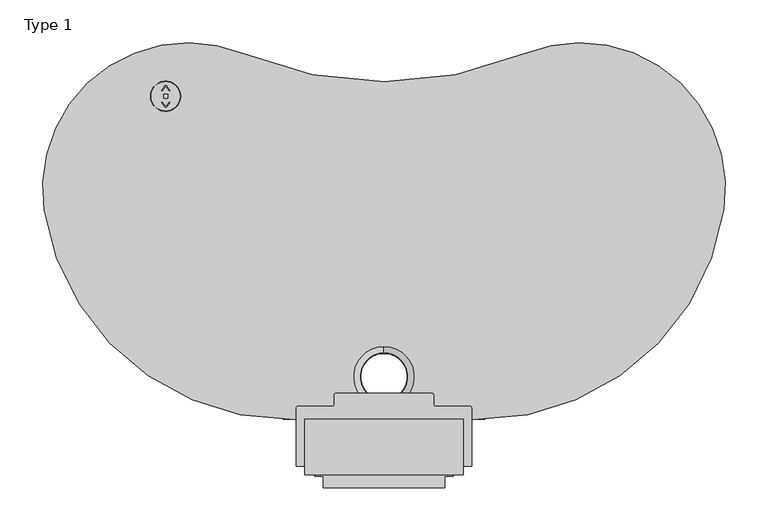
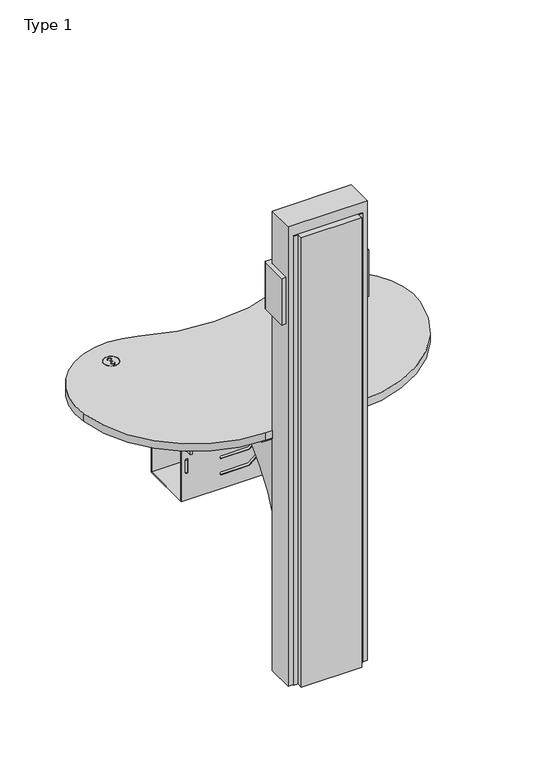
"""IFC4 building model written with IfcOpenShell, lengths in millimetres: furniture geometry, BK Library - Diarium : Type 1."""

from ifc_helpers import new_model, si_unit, point, frame, frame_2d, origin, origin_with_axes, place, context, project, spatial, polyline, circle_curve, ellipse_curve, trimmed, segment, composite_curve, outline, extrude, faceted_brep, source, transform, mapped, element, save
from ifc_brep_helpers import plane_surface, cylinder_surface, revolved_surface, advanced_brep


def type_1_df42e8d9(model_context):
    return source(origin(), model_context, "Body", "SolidModel", [
        advanced_brep(
        [(124.9969127, 334.5605984, 578.6136103), (124.9969127, 275.2, 578.6136103), (124.9969127, 277.6626827, 578.6136103), (124.9969127, 332.0979157, 578.6136103), (124.9969127, 334.5605984, 599.1136103), (124.9969127, 275.2, 599.1136103), (124.9969127, 340.1025774, 599.1136103), (124.9969127, 269.658021, 599.1136103), (124.9969127, 332.8173393, 603.1518838), (124.9969127, 276.9432591, 603.1518838), (124.9969127, 332.0979157, 602.7281109), (124.9969127, 277.6626827, 602.7281109)],
        [
            (0, 1, circle_curve(frame((124.9969127, 304.8802992, 578.6136103), z_axis=(0.0, 0.0, -1.0), x_axis=(0.0, -1.0, 0.0)), 29.6802992)),
            (1, 2),
            (2, 3, circle_curve(frame((124.9969127, 304.8802992, 578.6136103), z_axis=(0.0, 0.0, 1.0), x_axis=(0.0, -1.0, 0.0)), 27.2176165)),
            (3, 0),
            (1, 0, circle_curve(frame((124.9969127, 304.8802992, 578.6136103), z_axis=(0.0, 0.0, -1.0), x_axis=(0.0, -1.0, 0.0)), 29.6802992)),
            (3, 2, circle_curve(frame((124.9969127, 304.8802992, 578.6136103), z_axis=(0.0, 0.0, 1.0), x_axis=(0.0, -1.0, 0.0)), 27.2176165)),
            (4, 5, circle_curve(frame((124.9969127, 304.8802992, 599.1136103), z_axis=(0.0, 0.0, -1.0), x_axis=(0.0, -1.0, 0.0)), 29.6802992)),
            (5, 1),
            (0, 4),
            (5, 4, circle_curve(frame((124.9969127, 304.8802992, 599.1136103), z_axis=(0.0, 0.0, -1.0), x_axis=(0.0, -1.0, 0.0)), 29.6802992)),
            (6, 7, circle_curve(frame((124.9969127, 304.8802992, 599.1136103), z_axis=(0.0, 0.0, -1.0), x_axis=(0.0, -1.0, 0.0)), 35.2222782)),
            (7, 5),
            (4, 6),
            (7, 6, circle_curve(frame((124.9969127, 304.8802992, 599.1136103), z_axis=(0.0, 0.0, -1.0), x_axis=(0.0, -1.0, 0.0)), 35.2222782)),
            (8, 9, circle_curve(frame((124.9969127, 304.8802992, 603.1518838), z_axis=(0.0, 0.0, -1.0), x_axis=(0.0, -1.0, 0.0)), 27.9370401)),
            (9, 7),
            (6, 8),
            (9, 8, circle_curve(frame((124.9969127, 304.8802992, 603.1518838), z_axis=(0.0, 0.0, -1.0), x_axis=(0.0, -1.0, 0.0)), 27.9370401)),
            (10, 11, circle_curve(frame((124.9969127, 304.8802992, 602.7281109), z_axis=(0.0, 0.0, -1.0), x_axis=(0.0, -1.0, 0.0)), 27.2176165)),
            (11, 9, circle_curve(frame((124.9969127, 277.1781602, 602.7281109), z_axis=(1.0, 0.0, 0.0), x_axis=(0.0, 1.0, 0.0)), 0.4845224)),
            (8, 10, circle_curve(frame((124.9969127, 332.5824381, 602.7281109), z_axis=(1.0, 0.0, 0.0), x_axis=(0.0, -1.0, 0.0)), 0.4845224)),
            (11, 10, circle_curve(frame((124.9969127, 304.8802992, 602.7281109), z_axis=(0.0, 0.0, -1.0), x_axis=(0.0, -1.0, 0.0)), 27.2176165)),
            (2, 11),
            (10, 3),
        ],
        [
            plane_surface(frame((124.9969127, 304.8802992, 578.6136103), z_axis=(0.0, 0.0, -1.0), x_axis=(0.0, -1.0, 0.0))),
            cylinder_surface(frame((124.9969127, 304.8802992, 621.0146073), z_axis=(0.0, 0.0, 1.0), x_axis=(0.0, -1.0, 0.0)), 29.6802992),
            plane_surface(frame((124.9969127, 304.8802992, 599.1136103), z_axis=(0.0, 0.0, -1.0), x_axis=(0.0, -1.0, 0.0))),
            revolved_surface(polyline([(124.9969127, 269.658021, 599.1136103), (124.9969127, 276.9432591, 603.1518838)]), (124.9969127, 304.8802992, 621.0146073), (0.0, 0.0, 1.0)),
            revolved_surface(trimmed(ellipse_curve(frame((124.9969127, 277.1781602, 602.7281109), z_axis=(-1.0, 0.0, 0.0), x_axis=(0.0, 1.0, 0.0)), 0.4845224, 0.4845224), [point((124.9969127, 276.9432591, 603.1518838))], [point((124.9969127, 277.6626827, 602.7281109))], True, "CARTESIAN"), (124.9969127, 304.8802992, 621.0146073), (0.0, 0.0, 1.0)),
            revolved_surface(polyline([(124.9969127, 277.6626827, 602.7281109), (124.9969127, 277.6626827, 578.6136103)]), (124.9969127, 304.8802992, 621.0146073), (0.0, 0.0, 1.0)),
        ],
        [
            (0, [[1, 2, 3, 4]]),
            (0, [[5, -4, 6, -2]]),
            (1, [[7, 8, -1, 9]]),
            (1, [[10, -9, -5, -8]]),
            (2, [[11, 12, -7, 13]]),
            (2, [[14, -13, -10, -12]]),
            (3, [[15, 16, -11, 17]]),
            (3, [[18, -17, -14, -16]]),
            (4, [[19, 20, -15, 21]]),
            (4, [[22, -21, -18, -20]]),
            (5, [[-3, 23, -19, 24]]),
            (5, [[-6, -24, -22, -23]]),
        ],
    ),
        extrude(outline(composite_curve([segment(polyline([(234.5032627, 255.19995), (15.4905627, 255.20005)]), True, "CONTINUOUS"), segment(trimmed(circle_curve(frame_2d((12.2452908, 543.0017536)), 287.82), [point((15.4905627, 255.20005))], [point((-272.3026069, 499.7253595))], False, "CARTESIAN"), True, "CONTINUOUS"), segment(trimmed(circle_curve(frame_2d((-104.2352641, 525.2864289)), 170.0), [point((-272.3026069, 499.7253595))], [point((-39.3034767, 682.3974183))], False, "CARTESIAN"), True, "CONTINUOUS"), segment(trimmed(circle_curve(frame_2d((124.9968627, 1079.9436723)), 430.16), [point((-39.3034767, 682.3974183))], [point((289.3167344, 682.4054913))], True, "CARTESIAN"), True, "CONTINUOUS"), segment(trimmed(circle_curve(frame_2d((354.2562411, 525.2976924)), 170.0), [point((289.3167344, 682.4054913))], [point((522.3712179, 500.0518099))], False, "CARTESIAN"), True, "CONTINUOUS"), segment(trimmed(circle_curve(frame_2d((237.9800119, 542.7589328)), 287.58), [point((522.3712179, 500.0518099))], [point((234.5032627, 255.19995))], False, "CARTESIAN"), True, "CONTINUOUS")], self_intersect=False), holes=[composite_curve([segment(trimmed(circle_curve(frame_2d((124.9969127, 304.8802992)), 27.7955611), [point((152.7924737, 304.8802992))], [point((97.2013516, 304.8802992))], True, "CARTESIAN"), True, "CONTINUOUS"), segment(trimmed(circle_curve(frame_2d((124.9969127, 304.8802992)), 27.7955611), [point((97.2013516, 304.8802992))], [point((152.7924737, 304.8802992))], True, "CARTESIAN"), True, "CONTINUOUS")], self_intersect=False)]), frame((0.0, 0.0, 580.1136103), z_axis=(0.0, 0.0, 1.0), x_axis=(1.0, 0.0, 0.0)), (0.0, 0.0, 1.0), 19.0),
        advanced_brep(
        [(-60.2945265, 467.8813014, 578.8635898), (-60.2945265, 419.1313014, 578.8635898), (-60.2945265, 419.1313014, 580.1135898), (-60.2945265, 469.1313014, 580.1135898), (-60.2945265, 469.1313014, 325.1135898), (-60.2945265, 589.1313014, 325.1135898), (-60.2945265, 589.1313014, 580.1135898), (-60.2945265, 639.1313014, 580.1135898), (-60.2945265, 639.1313014, 578.8635898), (-60.2945265, 590.3813014, 578.8635898), (-60.2945265, 590.3813014, 323.8635898), (-60.2945265, 467.8813014, 323.8635898), (314.7054735, 467.8813014, 578.8635898), (314.7054735, 467.8813014, 323.8635898), (314.7054735, 590.3813014, 323.8635898), (314.7054735, 590.3813014, 578.8635898), (314.7054735, 639.1313014, 578.8635898), (314.7054735, 639.1313014, 580.1135898), (314.7054735, 589.1313014, 580.1135898), (314.7054735, 589.1313014, 325.1135898), (314.7054735, 469.1313014, 325.1135898), (314.7054735, 469.1313014, 580.1135898), (314.7054735, 419.1313014, 580.1135898), (314.7054735, 419.1313014, 578.8635898), (100.2463415, 469.1313014, 438.8635898), (253.4552302, 469.1313014, 567.4211117), (248.9557169, 469.1313014, 572.7834228), (97.6985499, 469.1313014, 445.8635898), (35.2463415, 469.1313014, 445.8635898), (35.2463415, 469.1313014, 438.8635898), (100.2463415, 469.1313014, 398.8635898), (253.4552302, 469.1313014, 527.4211117), (248.9557169, 469.1313014, 532.7834228), (97.6985499, 469.1313014, 405.8635898), (35.2463415, 469.1313014, 405.8635898), (35.2463415, 469.1313014, 398.8635898), (100.2463415, 469.1313014, 358.8635898), (253.4552302, 469.1313014, 487.4211117), (248.9557169, 469.1313014, 492.7834228), (97.6985499, 469.1313014, 365.8635898), (35.2463415, 469.1313014, 365.8635898), (35.2463415, 469.1313014, 358.8635898), (-50.2945265, 469.1313014, 423.8635898), (-50.2945265, 469.1313014, 393.8635898), (-44.2945265, 469.1313014, 393.8635898), (-44.2945265, 469.1313014, 423.8635898), (-50.2945265, 469.1313014, 478.8635898), (-50.2945265, 469.1313014, 448.8635898), (-44.2945265, 469.1313014, 448.8635898), (-44.2945265, 469.1313014, 478.8635898), (-50.2945265, 469.1313014, 533.8635898), (-50.2945265, 469.1313014, 503.8635898), (-44.2945265, 469.1313014, 503.8635898), (-44.2945265, 469.1313014, 533.8635898), (253.4552302, 589.1313014, 567.4211117), (100.2463415, 589.1313014, 438.8635898), (35.2463415, 589.1313014, 438.8635898), (35.2463415, 589.1313014, 445.8635898), (97.6985499, 589.1313014, 445.8635898), (248.9557169, 589.1313014, 572.7834228), (253.4552302, 589.1313014, 527.4211117), (100.2463415, 589.1313014, 398.8635898), (35.2463415, 589.1313014, 398.8635898), (35.2463415, 589.1313014, 405.8635898), (97.6985499, 589.1313014, 405.8635898), (248.9557169, 589.1313014, 532.7834228), (253.4552302, 589.1313014, 487.4211117), (100.2463415, 589.1313014, 358.8635898), (35.2463415, 589.1313014, 358.8635898), (35.2463415, 589.1313014, 365.8635898), (97.6985499, 589.1313014, 365.8635898), (248.9557169, 589.1313014, 492.7834228), (-50.2945265, 589.1313014, 393.8635898), (-50.2945265, 589.1313014, 423.8635898), (-44.2945265, 589.1313014, 423.8635898), (-44.2945265, 589.1313014, 393.8635898), (-50.2945265, 589.1313014, 448.8635898), (-50.2945265, 589.1313014, 478.8635898), (-44.2945265, 589.1313014, 478.8635898), (-44.2945265, 589.1313014, 448.8635898), (-50.2945265, 589.1313014, 503.8635898), (-50.2945265, 589.1313014, 533.8635898), (-44.2945265, 589.1313014, 533.8635898), (-44.2945265, 589.1313014, 503.8635898), (100.2463415, 590.3813014, 438.8635898), (253.4552302, 590.3813014, 567.4211117), (248.9557169, 590.3813014, 572.7834228), (97.6985499, 590.3813014, 445.8635898), (35.2463415, 590.3813014, 445.8635898), (35.2463415, 590.3813014, 438.8635898), (100.2463415, 590.3813014, 398.8635898), (253.4552302, 590.3813014, 527.4211117), (248.9557169, 590.3813014, 532.7834228), (97.6985499, 590.3813014, 405.8635898), (35.2463415, 590.3813014, 405.8635898), (35.2463415, 590.3813014, 398.8635898), (100.2463415, 590.3813014, 358.8635898), (253.4552302, 590.3813014, 487.4211117), (248.9557169, 590.3813014, 492.7834228), (97.6985499, 590.3813014, 365.8635898), (35.2463415, 590.3813014, 365.8635898), (35.2463415, 590.3813014, 358.8635898), (-50.2945265, 590.3813014, 423.8635898), (-50.2945265, 590.3813014, 393.8635898), (-44.2945265, 590.3813014, 393.8635898), (-44.2945265, 590.3813014, 423.8635898), (-50.2945265, 590.3813014, 478.8635898), (-50.2945265, 590.3813014, 448.8635898), (-44.2945265, 590.3813014, 448.8635898), (-44.2945265, 590.3813014, 478.8635898), (-50.2945265, 590.3813014, 533.8635898), (-50.2945265, 590.3813014, 503.8635898), (-44.2945265, 590.3813014, 503.8635898), (-44.2945265, 590.3813014, 533.8635898), (253.4552302, 467.8813014, 567.4211117), (100.2463415, 467.8813014, 438.8635898), (35.2463415, 467.8813014, 438.8635898), (35.2463415, 467.8813014, 445.8635898), (97.6985499, 467.8813014, 445.8635898), (248.9557169, 467.8813014, 572.7834228), (253.4552302, 467.8813014, 527.4211117), (100.2463415, 467.8813014, 398.8635898), (35.2463415, 467.8813014, 398.8635898), (35.2463415, 467.8813014, 405.8635898), (97.6985499, 467.8813014, 405.8635898), (248.9557169, 467.8813014, 532.7834228), (253.4552302, 467.8813014, 487.4211117), (100.2463415, 467.8813014, 358.8635898), (35.2463415, 467.8813014, 358.8635898), (35.2463415, 467.8813014, 365.8635898), (97.6985499, 467.8813014, 365.8635898), (248.9557169, 467.8813014, 492.7834228), (-50.2945265, 467.8813014, 393.8635898), (-50.2945265, 467.8813014, 423.8635898), (-44.2945265, 467.8813014, 423.8635898), (-44.2945265, 467.8813014, 393.8635898), (-50.2945265, 467.8813014, 448.8635898), (-50.2945265, 467.8813014, 478.8635898), (-44.2945265, 467.8813014, 478.8635898), (-44.2945265, 467.8813014, 448.8635898), (-50.2945265, 467.8813014, 503.8635898), (-50.2945265, 467.8813014, 533.8635898), (-44.2945265, 467.8813014, 533.8635898), (-44.2945265, 467.8813014, 503.8635898)],
        [
            (0, 1),
            (1, 2),
            (2, 3),
            (3, 4),
            (4, 5),
            (5, 6),
            (6, 7),
            (7, 8),
            (8, 9),
            (9, 10),
            (10, 11),
            (11, 0),
            (12, 13),
            (13, 14),
            (14, 15),
            (15, 16),
            (16, 17),
            (17, 18),
            (18, 19),
            (19, 20),
            (20, 21),
            (21, 22),
            (22, 23),
            (23, 12),
            (0, 12),
            (23, 1),
            (22, 2),
            (21, 3),
            (20, 4),
            (24, 25),
            (25, 26, circle_curve(frame((251.2054735, 469.1313014, 570.1022673), z_axis=(0.0, -1.0, 0.0), x_axis=(0.0, 0.0, -1.0)), 3.5)),
            (26, 27),
            (27, 28),
            (28, 29, circle_curve(frame((35.2463415, 469.1313014, 442.3635898), z_axis=(0.0, -1.0, 0.0), x_axis=(0.0, 0.0, -1.0)), 3.5)),
            (29, 24),
            (30, 31),
            (31, 32, circle_curve(frame((251.2054735, 469.1313014, 530.1022673), z_axis=(0.0, -1.0, 0.0), x_axis=(0.0, 0.0, -1.0)), 3.5)),
            (32, 33),
            (33, 34),
            (34, 35, circle_curve(frame((35.2463415, 469.1313014, 402.3635898), z_axis=(0.0, -1.0, 0.0), x_axis=(0.0, 0.0, -1.0)), 3.5)),
            (35, 30),
            (36, 37),
            (37, 38, circle_curve(frame((251.2054735, 469.1313014, 490.1022673), z_axis=(0.0, -1.0, 0.0), x_axis=(0.0, 0.0, -1.0)), 3.5)),
            (38, 39),
            (39, 40),
            (40, 41, circle_curve(frame((35.2463415, 469.1313014, 362.3635898), z_axis=(0.0, -1.0, 0.0), x_axis=(0.0, 0.0, -1.0)), 3.5)),
            (41, 36),
            (42, 43),
            (43, 44, circle_curve(frame((-47.2945265, 469.1313014, 393.8635898), z_axis=(0.0, -1.0, 0.0), x_axis=(0.0, 0.0, -1.0)), 3.0)),
            (44, 45),
            (45, 42, circle_curve(frame((-47.2945265, 469.1313014, 423.8635898), z_axis=(0.0, -1.0, 0.0), x_axis=(0.0, 0.0, -1.0)), 3.0)),
            (46, 47),
            (47, 48, circle_curve(frame((-47.2945265, 469.1313014, 448.8635898), z_axis=(0.0, -1.0, 0.0), x_axis=(0.0, 0.0, -1.0)), 3.0)),
            (48, 49),
            (49, 46, circle_curve(frame((-47.2945265, 469.1313014, 478.8635898), z_axis=(0.0, -1.0, 0.0), x_axis=(0.0, 0.0, -1.0)), 3.0)),
            (50, 51),
            (51, 52, circle_curve(frame((-47.2945265, 469.1313014, 503.8635898), z_axis=(0.0, -1.0, 0.0), x_axis=(0.0, 0.0, -1.0)), 3.0)),
            (52, 53),
            (53, 50, circle_curve(frame((-47.2945265, 469.1313014, 533.8635898), z_axis=(0.0, -1.0, 0.0), x_axis=(0.0, 0.0, -1.0)), 3.0)),
            (19, 5),
            (18, 6),
            (54, 55),
            (55, 56),
            (56, 57, circle_curve(frame((35.2463415, 589.1313014, 442.3635898), z_axis=(0.0, 1.0, 0.0), x_axis=(0.0, 0.0, -1.0)), 3.5)),
            (57, 58),
            (58, 59),
            (59, 54, circle_curve(frame((251.2054735, 589.1313014, 570.1022673), z_axis=(0.0, 1.0, 0.0), x_axis=(0.0, 0.0, -1.0)), 3.5)),
            (60, 61),
            (61, 62),
            (62, 63, circle_curve(frame((35.2463415, 589.1313014, 402.3635898), z_axis=(0.0, 1.0, 0.0), x_axis=(0.0, 0.0, -1.0)), 3.5)),
            (63, 64),
            (64, 65),
            (65, 60, circle_curve(frame((251.2054735, 589.1313014, 530.1022673), z_axis=(0.0, 1.0, 0.0), x_axis=(0.0, 0.0, -1.0)), 3.5)),
            (66, 67),
            (67, 68),
            (68, 69, circle_curve(frame((35.2463415, 589.1313014, 362.3635898), z_axis=(0.0, 1.0, 0.0), x_axis=(0.0, 0.0, -1.0)), 3.5)),
            (69, 70),
            (70, 71),
            (71, 66, circle_curve(frame((251.2054735, 589.1313014, 490.1022673), z_axis=(0.0, 1.0, 0.0), x_axis=(0.0, 0.0, -1.0)), 3.5)),
            (72, 73),
            (73, 74, circle_curve(frame((-47.2945265, 589.1313014, 423.8635898), z_axis=(0.0, 1.0, 0.0), x_axis=(0.0, 0.0, -1.0)), 3.0)),
            (74, 75),
            (75, 72, circle_curve(frame((-47.2945265, 589.1313014, 393.8635898), z_axis=(0.0, 1.0, 0.0), x_axis=(0.0, 0.0, -1.0)), 3.0)),
            (76, 77),
            (77, 78, circle_curve(frame((-47.2945265, 589.1313014, 478.8635898), z_axis=(0.0, 1.0, 0.0), x_axis=(0.0, 0.0, -1.0)), 3.0)),
            (78, 79),
            (79, 76, circle_curve(frame((-47.2945265, 589.1313014, 448.8635898), z_axis=(0.0, 1.0, 0.0), x_axis=(0.0, 0.0, -1.0)), 3.0)),
            (80, 81),
            (81, 82, circle_curve(frame((-47.2945265, 589.1313014, 533.8635898), z_axis=(0.0, 1.0, 0.0), x_axis=(0.0, 0.0, -1.0)), 3.0)),
            (82, 83),
            (83, 80, circle_curve(frame((-47.2945265, 589.1313014, 503.8635898), z_axis=(0.0, 1.0, 0.0), x_axis=(0.0, 0.0, -1.0)), 3.0)),
            (17, 7),
            (16, 8),
            (15, 9),
            (14, 10),
            (84, 85),
            (85, 86, circle_curve(frame((251.2054735, 590.3813014, 570.1022673), z_axis=(0.0, -1.0, 0.0), x_axis=(0.0, 0.0, -1.0)), 3.5)),
            (86, 87),
            (87, 88),
            (88, 89, circle_curve(frame((35.2463415, 590.3813014, 442.3635898), z_axis=(0.0, -1.0, 0.0), x_axis=(0.0, 0.0, -1.0)), 3.5)),
            (89, 84),
            (90, 91),
            (91, 92, circle_curve(frame((251.2054735, 590.3813014, 530.1022673), z_axis=(0.0, -1.0, 0.0), x_axis=(0.0, 0.0, -1.0)), 3.5)),
            (92, 93),
            (93, 94),
            (94, 95, circle_curve(frame((35.2463415, 590.3813014, 402.3635898), z_axis=(0.0, -1.0, 0.0), x_axis=(0.0, 0.0, -1.0)), 3.5)),
            (95, 90),
            (96, 97),
            (97, 98, circle_curve(frame((251.2054735, 590.3813014, 490.1022673), z_axis=(0.0, -1.0, 0.0), x_axis=(0.0, 0.0, -1.0)), 3.5)),
            (98, 99),
            (99, 100),
            (100, 101, circle_curve(frame((35.2463415, 590.3813014, 362.3635898), z_axis=(0.0, -1.0, 0.0), x_axis=(0.0, 0.0, -1.0)), 3.5)),
            (101, 96),
            (102, 103),
            (103, 104, circle_curve(frame((-47.2945265, 590.3813014, 393.8635898), z_axis=(0.0, -1.0, 0.0), x_axis=(0.0, 0.0, -1.0)), 3.0)),
            (104, 105),
            (105, 102, circle_curve(frame((-47.2945265, 590.3813014, 423.8635898), z_axis=(0.0, -1.0, 0.0), x_axis=(0.0, 0.0, -1.0)), 3.0)),
            (106, 107),
            (107, 108, circle_curve(frame((-47.2945265, 590.3813014, 448.8635898), z_axis=(0.0, -1.0, 0.0), x_axis=(0.0, 0.0, -1.0)), 3.0)),
            (108, 109),
            (109, 106, circle_curve(frame((-47.2945265, 590.3813014, 478.8635898), z_axis=(0.0, -1.0, 0.0), x_axis=(0.0, 0.0, -1.0)), 3.0)),
            (110, 111),
            (111, 112, circle_curve(frame((-47.2945265, 590.3813014, 503.8635898), z_axis=(0.0, -1.0, 0.0), x_axis=(0.0, 0.0, -1.0)), 3.0)),
            (112, 113),
            (113, 110, circle_curve(frame((-47.2945265, 590.3813014, 533.8635898), z_axis=(0.0, -1.0, 0.0), x_axis=(0.0, 0.0, -1.0)), 3.0)),
            (13, 11),
            (114, 115),
            (115, 116),
            (116, 117, circle_curve(frame((35.2463415, 467.8813014, 442.3635898), z_axis=(0.0, 1.0, 0.0), x_axis=(0.0, 0.0, -1.0)), 3.5)),
            (117, 118),
            (118, 119),
            (119, 114, circle_curve(frame((251.2054735, 467.8813014, 570.1022673), z_axis=(0.0, 1.0, 0.0), x_axis=(0.0, 0.0, -1.0)), 3.5)),
            (120, 121),
            (121, 122),
            (122, 123, circle_curve(frame((35.2463415, 467.8813014, 402.3635898), z_axis=(0.0, 1.0, 0.0), x_axis=(0.0, 0.0, -1.0)), 3.5)),
            (123, 124),
            (124, 125),
            (125, 120, circle_curve(frame((251.2054735, 467.8813014, 530.1022673), z_axis=(0.0, 1.0, 0.0), x_axis=(0.0, 0.0, -1.0)), 3.5)),
            (126, 127),
            (127, 128),
            (128, 129, circle_curve(frame((35.2463415, 467.8813014, 362.3635898), z_axis=(0.0, 1.0, 0.0), x_axis=(0.0, 0.0, -1.0)), 3.5)),
            (129, 130),
            (130, 131),
            (131, 126, circle_curve(frame((251.2054735, 467.8813014, 490.1022673), z_axis=(0.0, 1.0, 0.0), x_axis=(0.0, 0.0, -1.0)), 3.5)),
            (132, 133),
            (133, 134, circle_curve(frame((-47.2945265, 467.8813014, 423.8635898), z_axis=(0.0, 1.0, 0.0), x_axis=(0.0, 0.0, -1.0)), 3.0)),
            (134, 135),
            (135, 132, circle_curve(frame((-47.2945265, 467.8813014, 393.8635898), z_axis=(0.0, 1.0, 0.0), x_axis=(0.0, 0.0, -1.0)), 3.0)),
            (136, 137),
            (137, 138, circle_curve(frame((-47.2945265, 467.8813014, 478.8635898), z_axis=(0.0, 1.0, 0.0), x_axis=(0.0, 0.0, -1.0)), 3.0)),
            (138, 139),
            (139, 136, circle_curve(frame((-47.2945265, 467.8813014, 448.8635898), z_axis=(0.0, 1.0, 0.0), x_axis=(0.0, 0.0, -1.0)), 3.0)),
            (140, 141),
            (141, 142, circle_curve(frame((-47.2945265, 467.8813014, 533.8635898), z_axis=(0.0, 1.0, 0.0), x_axis=(0.0, 0.0, -1.0)), 3.0)),
            (142, 143),
            (143, 140, circle_curve(frame((-47.2945265, 467.8813014, 503.8635898), z_axis=(0.0, 1.0, 0.0), x_axis=(0.0, 0.0, -1.0)), 3.0)),
            (54, 85),
            (84, 55),
            (114, 25),
            (24, 115),
            (89, 56),
            (29, 116),
            (88, 57),
            (28, 117),
            (87, 58),
            (27, 118),
            (86, 59),
            (26, 119),
            (60, 91),
            (90, 61),
            (120, 31),
            (30, 121),
            (95, 62),
            (35, 122),
            (94, 63),
            (34, 123),
            (93, 64),
            (33, 124),
            (92, 65),
            (32, 125),
            (66, 97),
            (96, 67),
            (126, 37),
            (36, 127),
            (101, 68),
            (41, 128),
            (100, 69),
            (40, 129),
            (99, 70),
            (39, 130),
            (98, 71),
            (38, 131),
            (72, 103),
            (102, 73),
            (132, 43),
            (42, 133),
            (105, 74),
            (45, 134),
            (104, 75),
            (44, 135),
            (76, 107),
            (106, 77),
            (136, 47),
            (46, 137),
            (109, 78),
            (49, 138),
            (108, 79),
            (48, 139),
            (80, 111),
            (110, 81),
            (140, 51),
            (50, 141),
            (113, 82),
            (53, 142),
            (112, 83),
            (52, 143),
        ],
        [
            plane_surface(frame((-60.2945265, 419.1313014, 578.8635898), z_axis=(-1.0, 0.0, 0.0), x_axis=(0.0, -1.0, 0.0))),
            plane_surface(frame((314.7054735, 419.1313014, 578.8635898), z_axis=(1.0, 0.0, 0.0), x_axis=(0.0, 1.0, 0.0))),
            plane_surface(frame((-60.2945265, 467.8813014, 578.8635898), z_axis=(0.0, 0.0, -1.0), x_axis=(1.0, 0.0, 0.0))),
            plane_surface(frame((-60.2945265, 419.1313014, 578.8635898), z_axis=(0.0, -1.0, 0.0), x_axis=(1.0, 0.0, 0.0))),
            plane_surface(frame((-60.2945265, 419.1313014, 580.1135898), z_axis=(0.0, 0.0, 1.0), x_axis=(1.0, 0.0, 0.0))),
            plane_surface(frame((-60.2945265, 469.1313014, 580.1135898), z_axis=(0.0, 1.0, 0.0), x_axis=(1.0, 0.0, 0.0))),
            plane_surface(frame((-60.2945265, 469.1313014, 325.1135898), z_axis=(0.0, 0.0, 1.0), x_axis=(1.0, 0.0, 0.0))),
            plane_surface(frame((-60.2945265, 589.1313014, 325.1135898), z_axis=(0.0, -1.0, 0.0), x_axis=(1.0, 0.0, 0.0))),
            plane_surface(frame((-60.2945265, 589.1313014, 580.1135898), z_axis=(0.0, 0.0, 1.0), x_axis=(1.0, 0.0, 0.0))),
            plane_surface(frame((-60.2945265, 639.1313014, 580.1135898), z_axis=(0.0, 1.0, 0.0), x_axis=(1.0, 0.0, 0.0))),
            plane_surface(frame((-60.2945265, 639.1313014, 578.8635898), z_axis=(0.0, 0.0, -1.0), x_axis=(1.0, 0.0, 0.0))),
            plane_surface(frame((-60.2945265, 590.3813014, 578.8635898), z_axis=(0.0, 1.0, 0.0), x_axis=(1.0, 0.0, 0.0))),
            plane_surface(frame((-60.2945265, 590.3813014, 323.8635898), z_axis=(0.0, 0.0, -1.0), x_axis=(1.0, 0.0, 0.0))),
            plane_surface(frame((-60.2945265, 467.8813014, 323.8635898), z_axis=(0.0, -1.0, 0.0), x_axis=(1.0, 0.0, 0.0))),
            plane_surface(frame((253.4552302, 652.2200041, 567.4211117), z_axis=(-0.6427876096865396, 0.0, 0.7660444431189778), x_axis=(0.0, -1.0, 0.0))),
            plane_surface(frame((100.2463415, 652.2200041, 438.8635898), z_axis=(0.0, 0.0, 1.0), x_axis=(0.0, -1.0, 0.0))),
            revolved_surface(polyline([(35.2463415, 590.3813014, 438.8635898), (35.2463415, 589.1313014, 438.8635898)]), (35.2463415, 411.4231291, 442.3635898), (0.0, 1.0, 0.0)),
            revolved_surface(polyline([(35.2463415, 469.1313014, 438.8635898), (35.2463415, 467.8813014, 438.8635898)]), (35.2463415, 411.4231291, 442.3635898), (0.0, 1.0, 0.0)),
            plane_surface(frame((35.2463415, 652.2200041, 445.8635898), z_axis=(0.0, 0.0, -1.0), x_axis=(0.0, -1.0, 0.0))),
            plane_surface(frame((97.6985499, 652.2200041, 445.8635898), z_axis=(0.6427876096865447, 0.0, -0.7660444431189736), x_axis=(0.0, -1.0, 0.0))),
            revolved_surface(polyline([(251.2054735, 590.3813014, 566.6022673), (251.2054735, 589.1313014, 566.6022673)]), (251.2054735, 411.4231291, 570.1022673), (0.0, 1.0, 0.0)),
            revolved_surface(polyline([(251.2054735, 469.1313014, 566.6022673), (251.2054735, 467.8813014, 566.6022673)]), (251.2054735, 411.4231291, 570.1022673), (0.0, 1.0, 0.0)),
            plane_surface(frame((253.4552302, 652.2200041, 527.4211117), z_axis=(-0.6427876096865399, 0.0, 0.7660444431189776), x_axis=(0.0, -1.0, 0.0))),
            plane_surface(frame((100.2463415, 652.2200041, 398.8635898), z_axis=(0.0, 0.0, 1.0), x_axis=(0.0, -1.0, 0.0))),
            revolved_surface(polyline([(35.2463415, 590.3813014, 398.8635898), (35.2463415, 589.1313014, 398.8635898)]), (35.2463415, 175.0, 402.3635898), (0.0, 1.0, 0.0)),
            revolved_surface(polyline([(35.2463415, 469.1313014, 398.8635898), (35.2463415, 467.8813014, 398.8635898)]), (35.2463415, 175.0, 402.3635898), (0.0, 1.0, 0.0)),
            plane_surface(frame((35.2463415, 652.2200041, 405.8635898), z_axis=(0.0, 0.0, -1.0), x_axis=(0.0, -1.0, 0.0))),
            plane_surface(frame((97.6985499, 652.2200041, 405.8635898), z_axis=(0.6427876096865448, 0.0, -0.7660444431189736), x_axis=(0.0, -1.0, 0.0))),
            revolved_surface(polyline([(251.2054735, 590.3813014, 526.6022673), (251.2054735, 589.1313014, 526.6022673)]), (251.2054735, 175.0, 530.1022673), (0.0, 1.0, 0.0)),
            revolved_surface(polyline([(251.2054735, 469.1313014, 526.6022673), (251.2054735, 467.8813014, 526.6022673)]), (251.2054735, 175.0, 530.1022673), (0.0, 1.0, 0.0)),
            plane_surface(frame((253.4552302, 652.2200041, 487.4211117), z_axis=(-0.6427876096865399, 0.0, 0.7660444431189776), x_axis=(0.0, -1.0, 0.0))),
            plane_surface(frame((100.2463415, 652.2200041, 358.8635898), z_axis=(0.0, 0.0, 1.0), x_axis=(0.0, -1.0, 0.0))),
            revolved_surface(polyline([(35.2463415, 590.3813014, 358.8635898), (35.2463415, 589.1313014, 358.8635898)]), (35.2463415, 175.0, 362.3635898), (0.0, 1.0, 0.0)),
            revolved_surface(polyline([(35.2463415, 469.1313014, 358.8635898), (35.2463415, 467.8813014, 358.8635898)]), (35.2463415, 175.0, 362.3635898), (0.0, 1.0, 0.0)),
            plane_surface(frame((35.2463415, 652.2200041, 365.8635898), z_axis=(0.0, 0.0, -1.0), x_axis=(0.0, -1.0, 0.0))),
            plane_surface(frame((97.6985499, 652.2200041, 365.8635898), z_axis=(0.6427876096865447, 0.0, -0.7660444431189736), x_axis=(0.0, -1.0, 0.0))),
            revolved_surface(polyline([(251.2054735, 590.3813014, 486.6022673), (251.2054735, 589.1313014, 486.6022673)]), (251.2054735, 175.0, 490.1022673), (0.0, 1.0, 0.0)),
            revolved_surface(polyline([(251.2054735, 469.1313014, 486.6022673), (251.2054735, 467.8813014, 486.6022673)]), (251.2054735, 175.0, 490.1022673), (0.0, 1.0, 0.0)),
            plane_surface(frame((-50.2945265, 652.2200041, 393.8635898), z_axis=(1.0, 0.0, 0.0), x_axis=(0.0, -1.0, 0.0))),
            revolved_surface(polyline([(-47.2945265, 590.3813014, 420.8635898), (-47.2945265, 589.1313014, 420.8635898)]), (-47.2945265, 175.0, 423.8635898), (0.0, 1.0, 0.0)),
            revolved_surface(polyline([(-47.2945265, 469.1313014, 420.8635898), (-47.2945265, 467.8813014, 420.8635898)]), (-47.2945265, 175.0, 423.8635898), (0.0, 1.0, 0.0)),
            plane_surface(frame((-44.2945265, 652.2200041, 423.8635898), z_axis=(-1.0, 0.0, 0.0), x_axis=(0.0, -1.0, 0.0))),
            revolved_surface(polyline([(-47.2945265, 590.3813014, 390.8635898), (-47.2945265, 589.1313014, 390.8635898)]), (-47.2945265, 175.0, 393.8635898), (0.0, 1.0, 0.0)),
            revolved_surface(polyline([(-47.2945265, 469.1313014, 390.8635898), (-47.2945265, 467.8813014, 390.8635898)]), (-47.2945265, 175.0, 393.8635898), (0.0, 1.0, 0.0)),
            plane_surface(frame((-50.2945265, 652.2200041, 448.8635898), z_axis=(1.0, 0.0, 0.0), x_axis=(0.0, -1.0, 0.0))),
            revolved_surface(polyline([(-47.2945265, 590.3813014, 475.8635898), (-47.2945265, 589.1313014, 475.8635898)]), (-47.2945265, 175.0, 478.8635898), (0.0, 1.0, 0.0)),
            revolved_surface(polyline([(-47.2945265, 469.1313014, 475.8635898), (-47.2945265, 467.8813014, 475.8635898)]), (-47.2945265, 175.0, 478.8635898), (0.0, 1.0, 0.0)),
            plane_surface(frame((-44.2945265, 652.2200041, 478.8635898), z_axis=(-1.0, 0.0, 0.0), x_axis=(0.0, -1.0, 0.0))),
            revolved_surface(polyline([(-47.2945265, 590.3813014, 445.8635898), (-47.2945265, 589.1313014, 445.8635898)]), (-47.2945265, 175.0, 448.8635898), (0.0, 1.0, 0.0)),
            revolved_surface(polyline([(-47.2945265, 469.1313014, 445.8635898), (-47.2945265, 467.8813014, 445.8635898)]), (-47.2945265, 175.0, 448.8635898), (0.0, 1.0, 0.0)),
            plane_surface(frame((-50.2945265, 652.2200041, 503.8635898), z_axis=(1.0, 0.0, 0.0), x_axis=(0.0, -1.0, 0.0))),
            revolved_surface(polyline([(-47.2945265, 590.3813014, 530.8635898), (-47.2945265, 589.1313014, 530.8635898)]), (-47.2945265, 175.0, 533.8635898), (0.0, 1.0, 0.0)),
            revolved_surface(polyline([(-47.2945265, 469.1313014, 530.8635898), (-47.2945265, 467.8813014, 530.8635898)]), (-47.2945265, 175.0, 533.8635898), (0.0, 1.0, 0.0)),
            plane_surface(frame((-44.2945265, 652.2200041, 533.8635898), z_axis=(-1.0, 0.0, 0.0), x_axis=(0.0, -1.0, 0.0))),
            revolved_surface(polyline([(-47.2945265, 590.3813014, 500.8635898), (-47.2945265, 589.1313014, 500.8635898)]), (-47.2945265, 175.0, 503.8635898), (0.0, 1.0, 0.0)),
            revolved_surface(polyline([(-47.2945265, 469.1313014, 500.8635898), (-47.2945265, 467.8813014, 500.8635898)]), (-47.2945265, 175.0, 503.8635898), (0.0, 1.0, 0.0)),
        ],
        [
            (0, [[1, 2, 3, 4, 5, 6, 7, 8, 9, 10, 11, 12]]),
            (1, [[13, 14, 15, 16, 17, 18, 19, 20, 21, 22, 23, 24]]),
            (2, [[-1, 25, -24, 26]]),
            (3, [[-2, -26, -23, 27]]),
            (4, [[-3, -27, -22, 28]]),
            (5, [[-4, -28, -21, 29], [30, 31, 32, 33, 34, 35], [36, 37, 38, 39, 40, 41], [42, 43, 44, 45, 46, 47], [48, 49, 50, 51], [52, 53, 54, 55], [56, 57, 58, 59]]),
            (6, [[-5, -29, -20, 60]]),
            (7, [[-6, -60, -19, 61], [62, 63, 64, 65, 66, 67], [68, 69, 70, 71, 72, 73], [74, 75, 76, 77, 78, 79], [80, 81, 82, 83], [84, 85, 86, 87], [88, 89, 90, 91]]),
            (8, [[-7, -61, -18, 92]]),
            (9, [[-8, -92, -17, 93]]),
            (10, [[-9, -93, -16, 94]]),
            (11, [[-10, -94, -15, 95], [96, 97, 98, 99, 100, 101], [102, 103, 104, 105, 106, 107], [108, 109, 110, 111, 112, 113], [114, 115, 116, 117], [118, 119, 120, 121], [122, 123, 124, 125]]),
            (12, [[-11, -95, -14, 126]]),
            (13, [[-12, -126, -13, -25], [127, 128, 129, 130, 131, 132], [133, 134, 135, 136, 137, 138], [139, 140, 141, 142, 143, 144], [145, 146, 147, 148], [149, 150, 151, 152], [153, 154, 155, 156]]),
            (14, [[157, -96, 158, -62]]),
            (14, [[159, -30, 160, -127]]),
            (15, [[-158, -101, 161, -63]]),
            (15, [[-160, -35, 162, -128]]),
            (16, [[-161, -100, 163, -64]]),
            (17, [[-162, -34, 164, -129]]),
            (18, [[-163, -99, 165, -65]]),
            (18, [[-164, -33, 166, -130]]),
            (19, [[-165, -98, 167, -66]]),
            (19, [[-166, -32, 168, -131]]),
            (20, [[-157, -67, -167, -97]]),
            (21, [[-159, -132, -168, -31]]),
            (22, [[169, -102, 170, -68]]),
            (22, [[171, -36, 172, -133]]),
            (23, [[-170, -107, 173, -69]]),
            (23, [[-172, -41, 174, -134]]),
            (24, [[-173, -106, 175, -70]]),
            (25, [[-174, -40, 176, -135]]),
            (26, [[-175, -105, 177, -71]]),
            (26, [[-176, -39, 178, -136]]),
            (27, [[-177, -104, 179, -72]]),
            (27, [[-178, -38, 180, -137]]),
            (28, [[-169, -73, -179, -103]]),
            (29, [[-171, -138, -180, -37]]),
            (30, [[181, -108, 182, -74]]),
            (30, [[183, -42, 184, -139]]),
            (31, [[-182, -113, 185, -75]]),
            (31, [[-184, -47, 186, -140]]),
            (32, [[-185, -112, 187, -76]]),
            (33, [[-186, -46, 188, -141]]),
            (34, [[-187, -111, 189, -77]]),
            (34, [[-188, -45, 190, -142]]),
            (35, [[-189, -110, 191, -78]]),
            (35, [[-190, -44, 192, -143]]),
            (36, [[-181, -79, -191, -109]]),
            (37, [[-183, -144, -192, -43]]),
            (38, [[193, -114, 194, -80]]),
            (38, [[195, -48, 196, -145]]),
            (39, [[-194, -117, 197, -81]]),
            (40, [[-196, -51, 198, -146]]),
            (41, [[-197, -116, 199, -82]]),
            (41, [[-198, -50, 200, -147]]),
            (42, [[-193, -83, -199, -115]]),
            (43, [[-195, -148, -200, -49]]),
            (44, [[201, -118, 202, -84]]),
            (44, [[203, -52, 204, -149]]),
            (45, [[-202, -121, 205, -85]]),
            (46, [[-204, -55, 206, -150]]),
            (47, [[-205, -120, 207, -86]]),
            (47, [[-206, -54, 208, -151]]),
            (48, [[-201, -87, -207, -119]]),
            (49, [[-203, -152, -208, -53]]),
            (50, [[209, -122, 210, -88]]),
            (50, [[211, -56, 212, -153]]),
            (51, [[-210, -125, 213, -89]]),
            (52, [[-212, -59, 214, -154]]),
            (53, [[-213, -124, 215, -90]]),
            (53, [[-214, -58, 216, -155]]),
            (54, [[-209, -91, -215, -123]]),
            (55, [[-211, -156, -216, -57]]),
        ],
    ),
        extrude(outline(composite_curve([segment(trimmed(circle_curve(frame_2d((-44.2945265, 590.3813014)), 6.0), [point((-50.2945265, 590.3813014))], [point((-44.2945265, 596.3813014))], False, "CARTESIAN"), True, "CONTINUOUS"), segment(polyline([(-44.2945265, 596.3813014), (-31.2945265, 596.3813014), (-31.2945265, 592.3813014), (-44.3094624, 592.3813014)]), True, "CONTINUOUS"), segment(trimmed(circle_curve(frame_2d((-44.3094624, 590.3962374)), 1.985064), [point((-44.3094624, 592.3813014))], [point((-46.2945265, 590.3962374))], True, "CARTESIAN"), True, "CONTINUOUS"), segment(polyline([(-46.2945265, 590.3962374), (-46.2945265, 447.3813014), (-50.2945265, 447.3813014), (-50.2945265, 590.3813014)]), True, "CONTINUOUS")], self_intersect=False)), frame((0.0, 0.0, 450.1135898), z_axis=(0.0, 0.0, 1.0), x_axis=(1.0, 0.0, 0.0)), (0.0, 0.0, 1.0), 30.0),
        extrude(outline(composite_curve([segment(trimmed(circle_curve(frame_2d((317.4554735, 585.8813014)), 2.0), [point((319.4554735, 585.8813014))], [point((317.4554735, 587.8813014))], True, "CARTESIAN"), True, "CONTINUOUS"), segment(polyline([(317.4554735, 587.8813014), (300.7054735, 587.8813014), (300.7054735, 589.1313014), (317.7054735, 589.1313014)]), True, "CONTINUOUS"), segment(trimmed(circle_curve(frame_2d((317.7054735, 586.1313014)), 3.0), [point((317.7054735, 589.1313014))], [point((320.7054735, 586.1313014))], False, "CARTESIAN"), True, "CONTINUOUS"), segment(polyline([(320.7054735, 586.1313014), (320.7054735, 472.1313014)]), True, "CONTINUOUS"), segment(trimmed(circle_curve(frame_2d((317.7054735, 472.1313014)), 3.0), [point((320.7054735, 472.1313014))], [point((317.7054735, 469.1313014))], False, "CARTESIAN"), True, "CONTINUOUS"), segment(polyline([(317.7054735, 469.1313014), (300.7054735, 469.1313014), (300.7054735, 470.3813014), (317.4872606, 470.3813014)]), True, "CONTINUOUS"), segment(trimmed(circle_curve(frame_2d((317.4872606, 472.3495143)), 1.9682129), [point((317.4872606, 470.3813014))], [point((319.4554735, 472.3495143))], True, "CARTESIAN"), True, "CONTINUOUS"), segment(polyline([(319.4554735, 472.3495143), (319.4554735, 585.8813014)]), True, "CONTINUOUS")], self_intersect=False)), frame((0.0, 0.0, 365.1135898), z_axis=(0.0, 0.0, 1.0), x_axis=(1.0, 0.0, 0.0)), (0.0, 0.0, 1.0), 195.0),
        advanced_brep(
        [(212.9469127, 455.2, 578.1136103), (212.9469127, 255.2, 378.1136103), (212.9469127, 255.2, 580.1136103), (212.9469127, 455.2, 580.1136103), (214.9469127, 255.2, 578.1136103), (214.9469127, 255.2, 378.1136103), (214.9469127, 455.2, 578.1136103), (242.9469127, 255.2, 578.1136103), (242.9469127, 255.2, 580.1136103), (242.9469127, 455.2, 580.1136103), (242.9469127, 455.2, 578.1136103)],
        [
            (0, 1, circle_curve(frame((212.9469127, 577.9465937, 255.3670166), z_axis=(1.0, 0.0, 0.0), x_axis=(0.0, 0.0, -1.0)), 345.3)),
            (1, 2),
            (2, 3),
            (3, 0),
            (4, 5),
            (5, 6, circle_curve(frame((214.9469127, 577.9465937, 255.3670166), z_axis=(-1.0, 0.0, 0.0), x_axis=(0.0, 0.0, -1.0)), 345.3)),
            (6, 4),
            (0, 6),
            (5, 1),
            (4, 7),
            (7, 8),
            (8, 2),
            (9, 3),
            (8, 9),
            (10, 7),
            (6, 10),
            (9, 10),
        ],
        [
            plane_surface(frame((212.9469127, 255.2, 578.1136103), z_axis=(-1.0, 0.0, 0.0), x_axis=(0.0, 1.0, 0.0))),
            plane_surface(frame((214.9469127, 255.2, 578.1136103), z_axis=(1.0, 0.0, 0.0), x_axis=(0.0, -1.0, 0.0))),
            revolved_surface(polyline([(214.9469127, 577.9465937, -89.93298340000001), (212.9469127, 577.9465937, -89.93298340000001)]), (214.9469127, 577.9465937, 255.3670166), (1.0, 0.0, 0.0)),
            plane_surface(frame((212.9469127, 255.2, 378.1136103), z_axis=(0.0, -1.0, 0.0), x_axis=(1.0, 0.0, 0.0))),
            plane_surface(frame((214.9469127, 455.2, 580.1136103), z_axis=(0.0, 0.0, 1.0), x_axis=(-1.0, 0.0, 0.0))),
            plane_surface(frame((214.9469127, 455.2, 578.1136103), z_axis=(0.0, 0.0, -1.0), x_axis=(1.0, 0.0, 0.0))),
            plane_surface(frame((242.9469127, 455.2, 580.1136103), z_axis=(0.0, 1.0, 0.0), x_axis=(0.0, 0.0, -1.0))),
            plane_surface(frame((242.9469127, 255.2, 580.1136103), z_axis=(1.0, 0.0, 0.0), x_axis=(0.0, 0.0, -1.0))),
        ],
        [
            (0, [[1, 2, 3, 4]]),
            (1, [[5, 6, 7]]),
            (2, [[-1, 8, -6, 9]]),
            (3, [[-2, -9, -5, 10, 11, 12]]),
            (4, [[13, -3, -12, 14]]),
            (5, [[15, -10, -7, 16]]),
            (6, [[-13, 17, -16, -8, -4]]),
            (7, [[-14, -11, -15, -17]]),
        ],
    ),
        faceted_brep([(7.0469127, 455.2, 580.1136103), (7.0469127, 255.2, 580.1136103), (37.0469127, 255.2, 580.1136103), (37.0469127, 455.2, 580.1136103), (7.0469127, 455.2, 578.1136103), (37.0469127, 455.2, 578.1136103), (37.0469127, 255.2, 578.1136103), (7.0469127, 255.2, 578.1136103)], [[[0, 1, 2, 3]], [[4, 5, 6, 7]], [[1, 0, 4, 7]], [[2, 1, 7, 6]], [[3, 2, 6, 5]], [[0, 3, 5, 4]]]),
        extrude(outline(composite_curve([segment(polyline([(255.2, 578.1136103), (455.2, 578.1136103)]), True, "CONTINUOUS"), segment(trimmed(circle_curve(frame_2d((577.9465937, 255.3670166)), 345.3), [point((455.2, 578.1136103))], [point((255.2, 378.1136103))], True, "CARTESIAN"), True, "CONTINUOUS"), segment(polyline([(255.2, 378.1136103), (255.2, 578.1136103)]), True, "CONTINUOUS")], self_intersect=False)), frame((35.0469127, 0.0, 0.0), z_axis=(1.0, 0.0, 0.0), x_axis=(0.0, 1.0, 0.0)), (0.0, 0.0, 1.0), 2.0),
        extrude(outline(composite_curve([segment(polyline([(227.4469127, 268.2), (227.4469127, 200.2), (217.9469127, 200.2), (217.9469127, 255.2), (32.0469127, 255.2), (32.0469127, 200.2), (22.4469127, 200.2), (22.4469127, 268.2)]), True, "CONTINUOUS"), segment(trimmed(circle_curve(frame_2d((24.4469127, 268.2)), 2.0), [point((22.4469127, 268.2))], [point((24.4469127, 270.2))], False, "CARTESIAN"), True, "CONTINUOUS"), segment(polyline([(24.4469127, 270.2), (64.9469127, 270.2)]), True, "CONTINUOUS"), segment(trimmed(circle_curve(frame_2d((64.9469127, 272.2)), 2.0), [point((64.9469127, 270.2))], [point((66.9469127, 272.2))], True, "CARTESIAN"), True, "CONTINUOUS"), segment(polyline([(66.9469127, 272.2), (66.9469127, 283.2)]), True, "CONTINUOUS"), segment(trimmed(circle_curve(frame_2d((68.9469127, 283.2)), 2.0), [point((66.9469127, 283.2))], [point((68.9469127, 285.2))], False, "CARTESIAN"), True, "CONTINUOUS"), segment(polyline([(68.9469127, 285.2), (180.9469127, 285.2)]), True, "CONTINUOUS"), segment(trimmed(circle_curve(frame_2d((180.9469127, 283.2)), 2.0), [point((180.9469127, 285.2))], [point((182.9469127, 283.2))], False, "CARTESIAN"), True, "CONTINUOUS"), segment(polyline([(182.9469127, 283.2), (182.9469127, 272.2)]), True, "CONTINUOUS"), segment(trimmed(circle_curve(frame_2d((184.9469127, 272.2)), 2.0), [point((182.9469127, 272.2))], [point((184.9469127, 270.2))], True, "CARTESIAN"), True, "CONTINUOUS"), segment(polyline([(184.9469127, 270.2), (225.4469127, 270.2)]), True, "CONTINUOUS"), segment(trimmed(circle_curve(frame_2d((225.4469127, 268.2)), 2.0), [point((225.4469127, 270.2))], [point((227.4469127, 268.2))], False, "CARTESIAN"), True, "CONTINUOUS")], self_intersect=False)), frame((0.0, 0.0, 898.1136103), z_axis=(0.0, 0.0, 1.0), x_axis=(1.0, 0.0, 0.0)), (0.0, 0.0, 1.0), 116.0),
        extrude(outline(polyline([(195.9469127, 188.2), (195.9469127, 175.0), (54.0469127, 175.0), (54.0469127, 188.2), (44.0469127, 188.2), (44.0469127, 190.2), (205.9469127, 190.2), (205.9469127, 188.2), (195.9469127, 188.2)])), origin_with_axes(), (0.0, 0.0, 1.0), 1120.0),
        extrude(outline(polyline([(217.9469127, 190.2), (32.0469127, 190.2), (32.0469127, 255.2), (217.9469127, 255.2), (217.9469127, 190.2)])), origin_with_axes(), (0.0, 0.0, 1.0), 1146.1136103),
        extrude(outline(composite_curve([segment(trimmed(circle_curve(frame_2d((-130.377954, 632.7723156)), 17.5838575), [point((-112.7940964, 632.7723156))], [point((-147.9618115, 632.7723156))], False, "CARTESIAN"), True, "CONTINUOUS"), segment(trimmed(circle_curve(frame_2d((-130.377954, 632.7723156)), 17.5838575), [point((-147.9618115, 632.7723156))], [point((-112.7940964, 632.7723156))], False, "CARTESIAN"), True, "CONTINUOUS")], self_intersect=False), holes=[composite_curve([segment(trimmed(circle_curve(frame_2d((-130.377954, 632.7723156)), 17.0063859), [point((-113.371568, 632.7723156))], [point((-147.3843399, 632.7723156))], True, "CARTESIAN"), True, "CONTINUOUS"), segment(trimmed(circle_curve(frame_2d((-130.377954, 632.7723156)), 17.0063859), [point((-147.3843399, 632.7723156))], [point((-113.371568, 632.7723156))], True, "CARTESIAN"), True, "CONTINUOUS")], self_intersect=False)]), frame((0.0, 0.0, 596.2136103), z_axis=(0.0, 0.0, 1.0), x_axis=(1.0, 0.0, 0.0)), (0.0, 0.0, 1.0), 3.4998984),
        extrude(outline(polyline([(-128.0021611, 634.9303638), (-128.0021611, 630.4666822), (-132.5300683, 630.4666822), (-132.5300683, 634.9303638), (-128.0021611, 634.9303638)])), frame((0.0, 0.0, 596.2136103), z_axis=(0.0, 0.0, 1.0), x_axis=(1.0, 0.0, 0.0)), (0.0, 0.0, 1.0), 3.4998984),
        extrude(outline(composite_curve([segment(polyline([(-129.7026129, 621.2705706), (-126.2472919, 625.8559365)]), True, "CONTINUOUS"), segment(trimmed(circle_curve(frame_2d((-125.9060845, 625.5988183)), 0.4272379), [point((-126.2472919, 625.8559365))], [point((-125.5648771, 625.3417002))], False, "CARTESIAN"), True, "CONTINUOUS"), segment(polyline([(-125.5648771, 625.3417002), (-128.9954801, 620.7891363)]), True, "CONTINUOUS"), segment(trimmed(circle_curve(frame_2d((-130.2661147, 621.7466281)), 1.5910069), [point((-128.9954801, 620.7891363))], [point((-131.5367493, 620.7891363))], False, "CARTESIAN"), True, "CONTINUOUS"), segment(polyline([(-131.5367493, 620.7891363), (-134.9673522, 625.3417002)]), True, "CONTINUOUS"), segment(trimmed(circle_curve(frame_2d((-134.6261449, 625.5988183)), 0.4272379), [point((-134.9673522, 625.3417002))], [point((-134.2849375, 625.8559365))], False, "CARTESIAN"), True, "CONTINUOUS"), segment(polyline([(-134.2849375, 625.8559365), (-130.8296164, 621.2705706)]), True, "CONTINUOUS"), segment(trimmed(circle_curve(frame_2d((-130.2661147, 621.6951996)), 0.7055806), [point((-130.8296164, 621.2705706))], [point((-129.7026129, 621.2705706))], True, "CARTESIAN"), True, "CONTINUOUS")], self_intersect=False)), frame((0.0, 0.0, 596.2136103), z_axis=(0.0, 0.0, 1.0), x_axis=(1.0, 0.0, 0.0)), (0.0, 0.0, 1.0), 3.4998984),
        extrude(outline(composite_curve([segment(trimmed(circle_curve(frame_2d((-130.2661147, 643.7018464)), 0.7055806), [point((-129.7026129, 644.1264754))], [point((-130.8296164, 644.1264754))], True, "CARTESIAN"), True, "CONTINUOUS"), segment(polyline([(-130.8296164, 644.1264754), (-134.2849375, 639.5411095)]), True, "CONTINUOUS"), segment(trimmed(circle_curve(frame_2d((-134.6261449, 639.7982277)), 0.4272379), [point((-134.2849375, 639.5411095))], [point((-134.9673522, 640.0553459))], False, "CARTESIAN"), True, "CONTINUOUS"), segment(polyline([(-134.9673522, 640.0553459), (-131.5367493, 644.6079098)]), True, "CONTINUOUS"), segment(trimmed(circle_curve(frame_2d((-130.2661147, 643.6504179)), 1.5910069), [point((-131.5367493, 644.6079098))], [point((-128.9954801, 644.6079098))], False, "CARTESIAN"), True, "CONTINUOUS"), segment(polyline([(-128.9954801, 644.6079098), (-125.5648771, 640.0553459)]), True, "CONTINUOUS"), segment(trimmed(circle_curve(frame_2d((-125.9060845, 639.7982277)), 0.4272379), [point((-125.5648771, 640.0553459))], [point((-126.2472919, 639.5411095))], False, "CARTESIAN"), True, "CONTINUOUS"), segment(polyline([(-126.2472919, 639.5411095), (-129.7026129, 644.1264754)]), True, "CONTINUOUS")], self_intersect=False)), frame((0.0, 0.0, 596.2136103), z_axis=(0.0, 0.0, 1.0), x_axis=(1.0, 0.0, 0.0)), (0.0, 0.0, 1.0), 3.4998984),
    ])


if __name__ == "__main__":
    model = new_model("IFC4")
    model_context = context("Model", 3, world=origin())
    ifc_project = project(units=[si_unit("LENGTHUNIT", "METRE", prefix="MILLI")], contexts=[model_context])
    site = spatial("IfcSite", under=ifc_project)
    building = spatial("IfcBuilding", under=site)
    placement = place(None, origin())
    type_1_shape = type_1_df42e8d9(model_context)
    element("IfcFurniture", 1, ObjectType="BK Library - Diarium : Type 1", at=placement, inside=building, context=model_context, shape_type="MappedRepresentation", body=[
        mapped(type_1_shape, transform((0.0, 0.0, 0.0), x_axis=(1.0, 0.0, 0.0), y_axis=(0.0, 1.0, 0.0), z_axis=(0.0, 0.0, 1.0))),
    ])
    save(model, "model.ifc")
